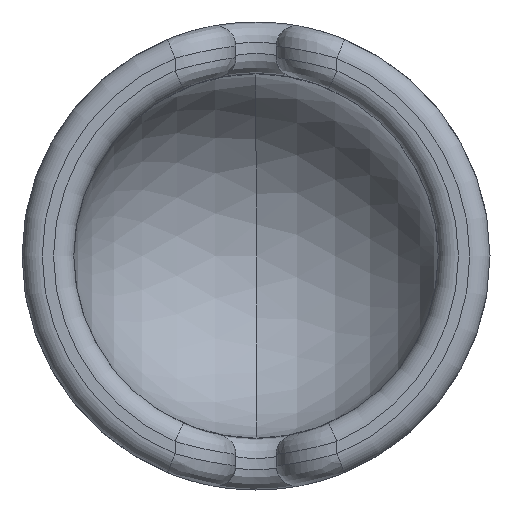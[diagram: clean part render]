
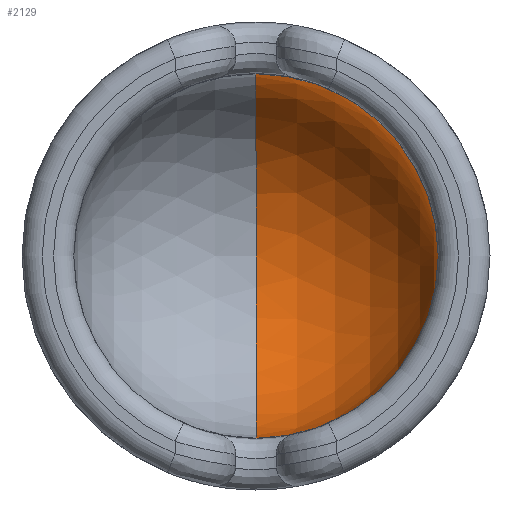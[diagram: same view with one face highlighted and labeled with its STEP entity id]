
A CAD part, front view. The second image highlights one B-rep face of the part: STEP entity #2129.
In plain terms, the highlighted spherical face has radius 7.144 mm.
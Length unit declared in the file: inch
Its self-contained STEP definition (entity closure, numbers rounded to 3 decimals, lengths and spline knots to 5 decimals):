
#56 = EDGE_CURVE ( 'NONE', #1589, #1697, #1679, .T. ) ;
#78 = EDGE_LOOP ( 'NONE', ( #2404, #1163, #866 ) ) ;
#253 = DIRECTION ( 'NONE',  ( 0., 0., -1. ) ) ;
#365 = CARTESIAN_POINT ( 'NONE',  ( 0., 1.625, -0.28125 ) ) ;
#479 = AXIS2_PLACEMENT_3D ( 'NONE', #2544, #3148, #253 ) ;
#672 = CARTESIAN_POINT ( 'NONE',  ( 0., 1.625, 0. ) ) ;
#683 = SPHERICAL_SURFACE ( 'NONE', #1162, 0.28125 ) ;
#800 = DIRECTION ( 'NONE',  ( 0., 1., 0. ) ) ;
#866 = ORIENTED_EDGE ( 'NONE', *, *, #56, .F. ) ;
#935 = CIRCLE ( 'NONE', #3101, 0.28125 ) ;
#995 = AXIS2_PLACEMENT_3D ( 'NONE', #1051, #800, #2888 ) ;
#1051 = CARTESIAN_POINT ( 'NONE',  ( 0., 1.625, 0. ) ) ;
#1162 = AXIS2_PLACEMENT_3D ( 'NONE', #672, #2554, #3134 ) ;
#1163 = ORIENTED_EDGE ( 'NONE', *, *, #2112, .T. ) ;
#1248 = VERTEX_POINT ( 'NONE', #2729 ) ;
#1251 = DIRECTION ( 'NONE',  ( 0., 0., 1. ) ) ;
#1357 = EDGE_CURVE ( 'NONE', #1248, #1589, #1564, .T. ) ;
#1564 = CIRCLE ( 'NONE', #995, 0.28125 ) ;
#1589 = VERTEX_POINT ( 'NONE', #365 ) ;
#1679 = CIRCLE ( 'NONE', #479, 0.28125 ) ;
#1697 = VERTEX_POINT ( 'NONE', #1757 ) ;
#1757 = CARTESIAN_POINT ( 'NONE',  ( 0., 1.90625, 0. ) ) ;
#2112 = EDGE_CURVE ( 'NONE', #1248, #1697, #935, .T. ) ;
#2129 = ADVANCED_FACE ( 'NONE', ( #2302 ), #683, .F. ) ;
#2256 = DIRECTION ( 'NONE',  ( -1., 0., 0. ) ) ;
#2302 = FACE_OUTER_BOUND ( 'NONE', #78, .T. ) ;
#2404 = ORIENTED_EDGE ( 'NONE', *, *, #1357, .F. ) ;
#2544 = CARTESIAN_POINT ( 'NONE',  ( 0., 1.625, 0. ) ) ;
#2554 = DIRECTION ( 'NONE',  ( -1., 0., 0. ) ) ;
#2729 = CARTESIAN_POINT ( 'NONE',  ( 0., 1.625, 0.28125 ) ) ;
#2888 = DIRECTION ( 'NONE',  ( 0., 0., 1. ) ) ;
#3037 = CARTESIAN_POINT ( 'NONE',  ( 0., 1.625, 0. ) ) ;
#3101 = AXIS2_PLACEMENT_3D ( 'NONE', #3037, #2256, #1251 ) ;
#3134 = DIRECTION ( 'NONE',  ( 0., 0., -1. ) ) ;
#3148 = DIRECTION ( 'NONE',  ( 1., 0., 0. ) ) ;
